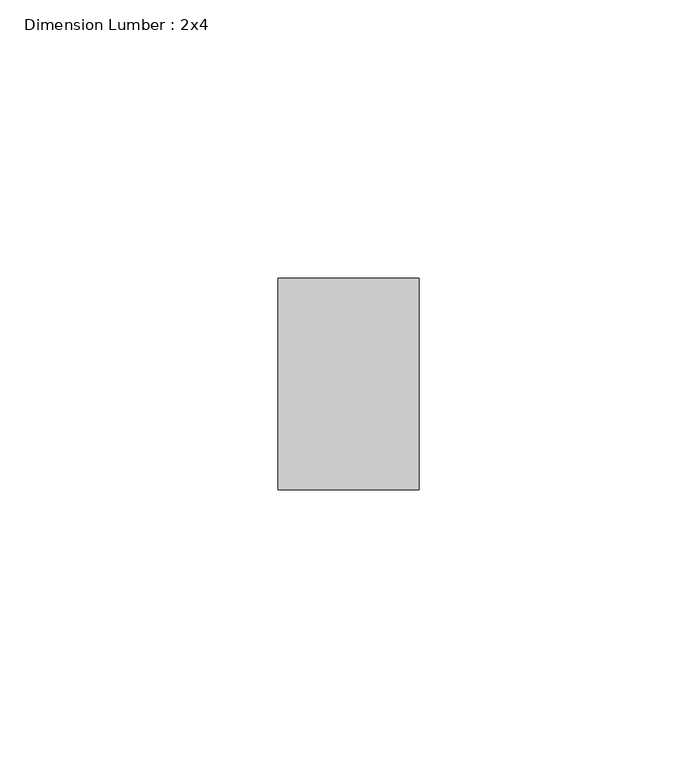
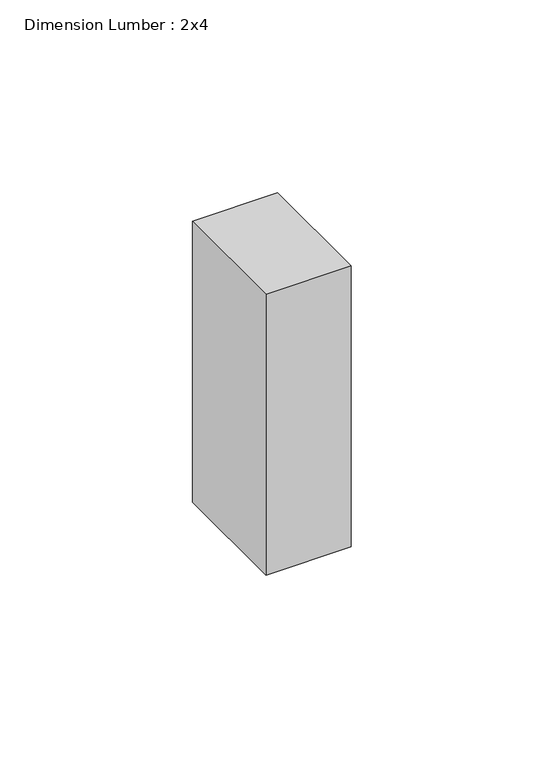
"""IFC4 building model written with IfcOpenShell, lengths in millimetres: beam geometry, Dimension Lumber : 2x4."""

from ifc_helpers import new_model, si_unit, frame, origin, place, context, project, spatial, polyline, outline, extrude, source, transform, mapped, element, save


def dimension_lumber_2x4_d0cbc209(model_context):
    return source(origin(), model_context, "Body", "SweptSolid", [
        extrude(outline(polyline([(12.7, 19.05), (12.7, -19.05), (-12.7, -19.05), (-12.7, 19.05), (12.7, 19.05)])), frame((0.0, 0.0, -44.45), z_axis=(0.0, 0.0, 1.0), x_axis=(1.0, 0.0, 0.0)), (0.0, 0.0, 1.0), 88.9),
    ])


if __name__ == "__main__":
    model = new_model("IFC4")
    model_context = context("Model", 3, world=origin())
    ifc_project = project(units=[si_unit("LENGTHUNIT", "METRE", prefix="MILLI")], contexts=[model_context])
    site = spatial("IfcSite", under=ifc_project)
    building = spatial("IfcBuilding", under=site)
    placement = place(None, origin())
    dimension_lumber_2x4_shape = dimension_lumber_2x4_d0cbc209(model_context)
    element("IfcBeam", 1, ObjectType="Dimension Lumber : 2x4", at=placement, inside=building, context=model_context, shape_type="MappedRepresentation", body=[
        mapped(dimension_lumber_2x4_shape, transform((0.0, 0.0, 0.0), x_axis=(1.0, 0.0, 0.0), y_axis=(0.0, 1.0, 0.0), z_axis=(0.0, 0.0, 1.0))),
    ])
    save(model, "model.ifc")
